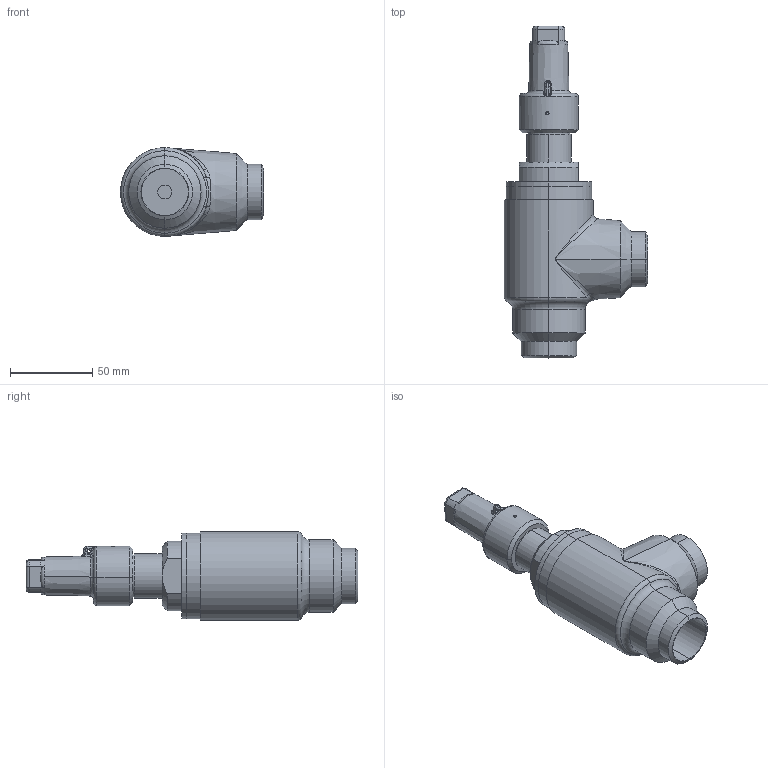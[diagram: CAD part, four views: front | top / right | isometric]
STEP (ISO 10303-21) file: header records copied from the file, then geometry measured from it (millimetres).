
FILE_DESCRIPTION (( 'STEP AP214' ), '1' );
FILE_NAME ('UVA 41200c12-DN25_R1.STEP', '2009-02-11T08:12:55', ( 'Eckhard Grams' ), ( 'AWP Kälte Klima Armaturen GmbH' ), 'SwSTEP 2.0', 'SolidWorks 2002296', '' );
FILE_SCHEMA (( 'AUTOMOTIVE_DESIGN' ));
Length unit declared in the file: millimetre
Products named in the file (4): UVA 41200c12-DN25_R1; Kappe 36302-10_DN6-15 (M27x1)_Standard; Deckel 44353-11-DN20-32_PS40_Standard; Gehäuse41200E12-DN25_PS40_R1_Standard
Assembly tree (3 placements, depth 2):
  UVA 41200c12-DN25_R1
    Kappe 36302-10_DN6-15 (M27x1)_Standard
    Deckel 44353-11-DN20-32_PS40_Standard
    Gehäuse41200E12-DN25_PS40_R1_Standard
Bounding box: 87 x 201.75 x 54 mm (x, y, z)
Volume: 186899.4 mm3; surface area: 59986.6 mm2
Topology: 3 solids, 3 shells, 193 faces, 430 edges, 256 vertices
Faces by surface type: cylinder 77, plane 39, cone 34, torus 28, bspline 15
Entity records: 22098 total; most frequent: CARTESIAN_POINT 17042, DIRECTION 955, ORIENTED_EDGE 860, EDGE_CURVE 430, AXIS2_PLACEMENT_3D 410, VERTEX_POINT 256, CIRCLE 226, EDGE_LOOP 216
